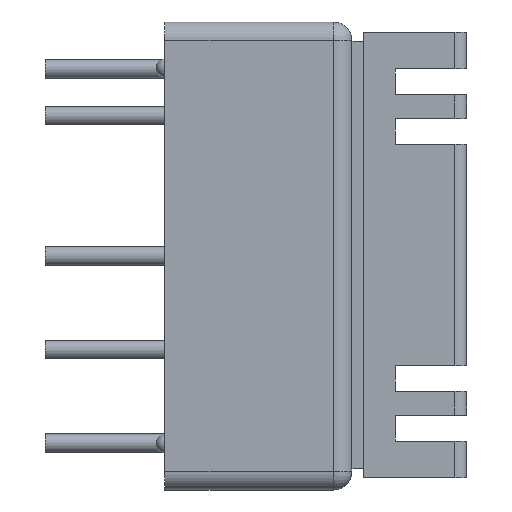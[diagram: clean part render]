
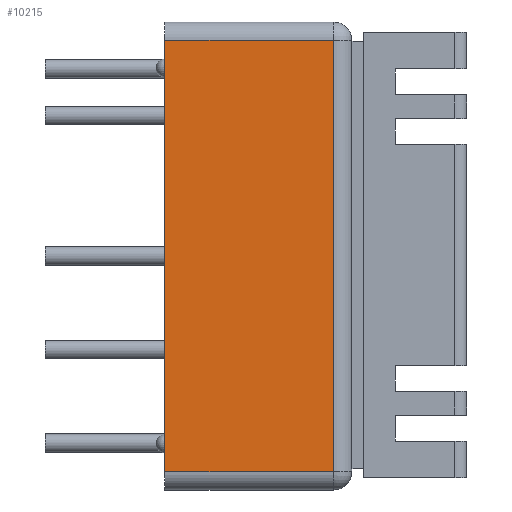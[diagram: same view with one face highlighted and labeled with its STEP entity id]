
A CAD part, left-side view. The second image highlights one B-rep face of the part: STEP entity #10215.
In plain terms, the highlighted planar face has unit normal (-1, 0, 0).
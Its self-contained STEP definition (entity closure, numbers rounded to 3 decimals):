
#233=LINE('',#18741,#1375);
#236=LINE('',#18763,#1378);
#237=LINE('',#18765,#1379);
#238=LINE('',#18767,#1380);
#1375=VECTOR('',#15645,1000.);
#1378=VECTOR('',#15666,1000.);
#1379=VECTOR('',#15667,1000.);
#1380=VECTOR('',#15668,1000.);
#2534=ORIENTED_EDGE('',*,*,#5591,.F.);
#2535=ORIENTED_EDGE('',*,*,#5602,.T.);
#2536=ORIENTED_EDGE('',*,*,#5603,.T.);
#2537=ORIENTED_EDGE('',*,*,#5604,.T.);
#5591=EDGE_CURVE('',#7125,#7126,#233,.T.);
#5602=EDGE_CURVE('',#7125,#7136,#236,.T.);
#5603=EDGE_CURVE('',#7136,#7137,#237,.T.);
#5604=EDGE_CURVE('',#7137,#7126,#238,.F.);
#7125=VERTEX_POINT('',#18740);
#7126=VERTEX_POINT('',#18742);
#7136=VERTEX_POINT('',#18764);
#7137=VERTEX_POINT('',#18766);
#8545=EDGE_LOOP('',(#2534,#2535,#2536,#2537));
#9195=FACE_BOUND('',#8545,.T.);
#9835=PLANE('',#14667);
#10215=ADVANCED_FACE('',(#9195),#9835,.F.);
#14667=AXIS2_PLACEMENT_3D('',#18762,#15664,#15665);
#15645=DIRECTION('',(0.,0.,1.));
#15664=DIRECTION('',(1.,0.,0.));
#15665=DIRECTION('',(0.,0.,-1.));
#15666=DIRECTION('',(0.,-1.,0.));
#15667=DIRECTION('',(0.,0.,1.));
#15668=DIRECTION('',(0.,-1.,0.));
#18740=CARTESIAN_POINT('',(-25.415,10.16,-19.62));
#18741=CARTESIAN_POINT('',(-25.415,10.16,-20.62));
#18742=CARTESIAN_POINT('',(-25.415,10.16,3.78));
#18762=CARTESIAN_POINT('',(-25.415,10.16,-20.62));
#18763=CARTESIAN_POINT('',(-25.415,10.16,-19.62));
#18764=CARTESIAN_POINT('',(-25.415,1.,-19.62));
#18765=CARTESIAN_POINT('',(-25.415,1.,-20.62));
#18766=CARTESIAN_POINT('',(-25.415,1.,3.78));
#18767=CARTESIAN_POINT('',(-25.415,10.16,3.78));
